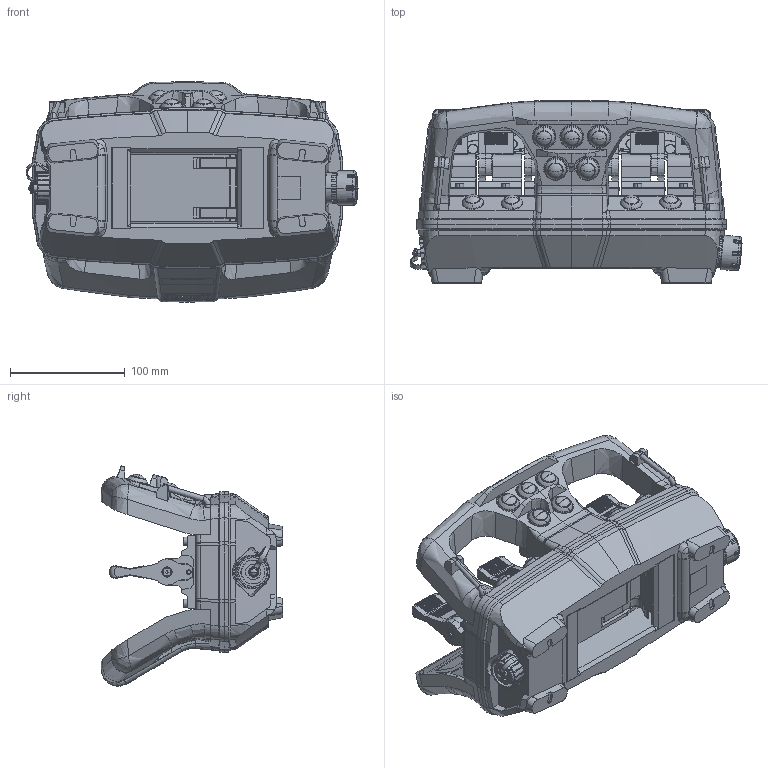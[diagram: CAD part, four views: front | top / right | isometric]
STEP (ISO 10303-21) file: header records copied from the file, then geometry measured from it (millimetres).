
FILE_DESCRIPTION (( 'STEP AP203' ), '1' );
FILE_NAME ('S-1319.STEP', '2018-05-28T11:15:47', ( '' ), ( '' ), 'SwSTEP 2.0', 'SolidWorks 2018', '' );
FILE_SCHEMA (( 'CONFIG_CONTROL_DESIGN' ));
Products named in the file (1): S-1319
Bounding box: 289.25 x 158.47 x 191.91 mm (x, y, z)
Volume: 2415440.7 mm3; surface area: 460201.2 mm2
Topology: 11 solids, 34 shells, 4945 faces, 13886 edges, 9145 vertices
Faces by surface type: plane 3087, cone 586, bspline 554, cylinder 502, torus 142, sphere 74
Entity records: 182837 total; most frequent: CARTESIAN_POINT 61520, ORIENTED_EDGE 27680, DIRECTION 21837, EDGE_CURVE 13840, VERTEX_POINT 9145, LINE 8671, VECTOR 8671, AXIS2_PLACEMENT_3D 6583
